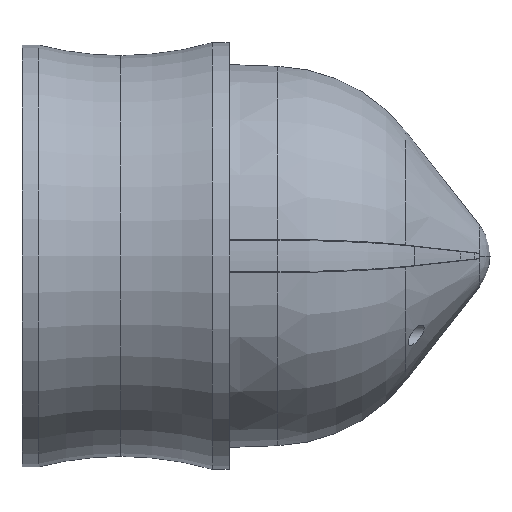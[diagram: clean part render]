
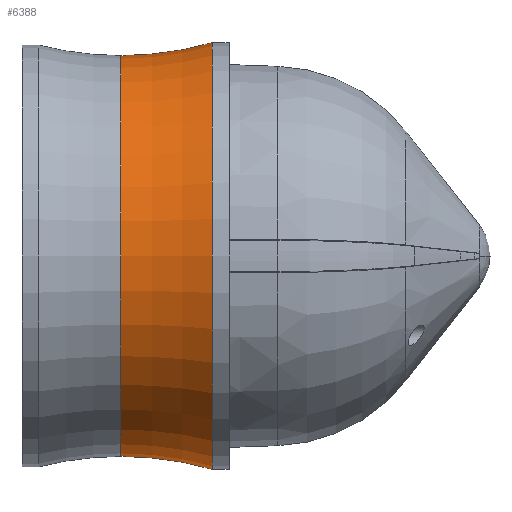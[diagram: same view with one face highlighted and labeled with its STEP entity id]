
A CAD part, left-side view. The second image highlights one B-rep face of the part: STEP entity #6388.
In plain terms, the highlighted toroidal (fillet/blend) face has major radius 19.786 mm and minor radius 12.294 mm.
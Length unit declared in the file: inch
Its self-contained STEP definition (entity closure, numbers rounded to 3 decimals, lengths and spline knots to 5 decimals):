
#215 = CIRCLE ( 'NONE', #9578, 0.29498 ) ;
#277 = EDGE_LOOP ( 'NONE', ( #5716, #5145, #8425, #3860 ) ) ;
#294 = CARTESIAN_POINT ( 'NONE',  ( 0., 0.06, 0.314 ) ) ;
#314 = AXIS2_PLACEMENT_3D ( 'NONE', #8742, #9584, #2738 ) ;
#329 = DIRECTION ( 'NONE',  ( 0., 1., 0. ) ) ;
#527 = DIRECTION ( 'NONE',  ( 0., 0., 1. ) ) ;
#580 = VERTEX_POINT ( 'NONE', #4037 ) ;
#935 = CARTESIAN_POINT ( 'NONE',  ( 0., 0.19437, -0.29498 ) ) ;
#2280 = CARTESIAN_POINT ( 'NONE',  ( 0., 0.06, 0. ) ) ;
#2738 = DIRECTION ( 'NONE',  ( 0., 0., 1. ) ) ;
#3024 = VERTEX_POINT ( 'NONE', #3843 ) ;
#3078 = VERTEX_POINT ( 'NONE', #294 ) ;
#3843 = CARTESIAN_POINT ( 'NONE',  ( 0., 0.06, -0.314 ) ) ;
#3860 = ORIENTED_EDGE ( 'NONE', *, *, #5059, .F. ) ;
#4037 = CARTESIAN_POINT ( 'NONE',  ( 0., 0.19437, 0.29498 ) ) ;
#4240 = EDGE_CURVE ( 'NONE', #9103, #3024, #4482, .T. ) ;
#4318 = DIRECTION ( 'NONE',  ( 0., 0., 1. ) ) ;
#4482 = CIRCLE ( 'NONE', #4644, 0.484 ) ;
#4644 = AXIS2_PLACEMENT_3D ( 'NONE', #5960, #5211, #7494 ) ;
#5059 = EDGE_CURVE ( 'NONE', #580, #3078, #5410, .T. ) ;
#5145 = ORIENTED_EDGE ( 'NONE', *, *, #4240, .T. ) ;
#5167 = DIRECTION ( 'NONE',  ( 0., 1., 0. ) ) ;
#5211 = DIRECTION ( 'NONE',  ( 1., 0., 0. ) ) ;
#5410 = CIRCLE ( 'NONE', #314, 0.484 ) ;
#5716 = ORIENTED_EDGE ( 'NONE', *, *, #8437, .F. ) ;
#5960 = CARTESIAN_POINT ( 'NONE',  ( 0., 0.19437, -0.77898 ) ) ;
#6388 = ADVANCED_FACE ( 'NONE', ( #8075 ), #7824, .F. ) ;
#6434 = AXIS2_PLACEMENT_3D ( 'NONE', #2280, #5167, #9823 ) ;
#6551 = CARTESIAN_POINT ( 'NONE',  ( 0., 0.19437, 0. ) ) ;
#7205 = DIRECTION ( 'NONE',  ( 0., 1., 0. ) ) ;
#7494 = DIRECTION ( 'NONE',  ( 0., 0., -1. ) ) ;
#7668 = AXIS2_PLACEMENT_3D ( 'NONE', #6551, #329, #4318 ) ;
#7824 = TOROIDAL_SURFACE ( 'NONE', #7668, 0.77898, 0.484 ) ;
#8075 = FACE_OUTER_BOUND ( 'NONE', #277, .T. ) ;
#8425 = ORIENTED_EDGE ( 'NONE', *, *, #9268, .T. ) ;
#8437 = EDGE_CURVE ( 'NONE', #9103, #580, #215, .T. ) ;
#8742 = CARTESIAN_POINT ( 'NONE',  ( 0., 0.19437, 0.77898 ) ) ;
#9103 = VERTEX_POINT ( 'NONE', #935 ) ;
#9268 = EDGE_CURVE ( 'NONE', #3024, #3078, #9582, .T. ) ;
#9564 = CARTESIAN_POINT ( 'NONE',  ( 0., 0.19437, 0. ) ) ;
#9578 = AXIS2_PLACEMENT_3D ( 'NONE', #9564, #7205, #527 ) ;
#9582 = CIRCLE ( 'NONE', #6434, 0.314 ) ;
#9584 = DIRECTION ( 'NONE',  ( -1., 0., 0. ) ) ;
#9823 = DIRECTION ( 'NONE',  ( 0., 0., 1. ) ) ;
